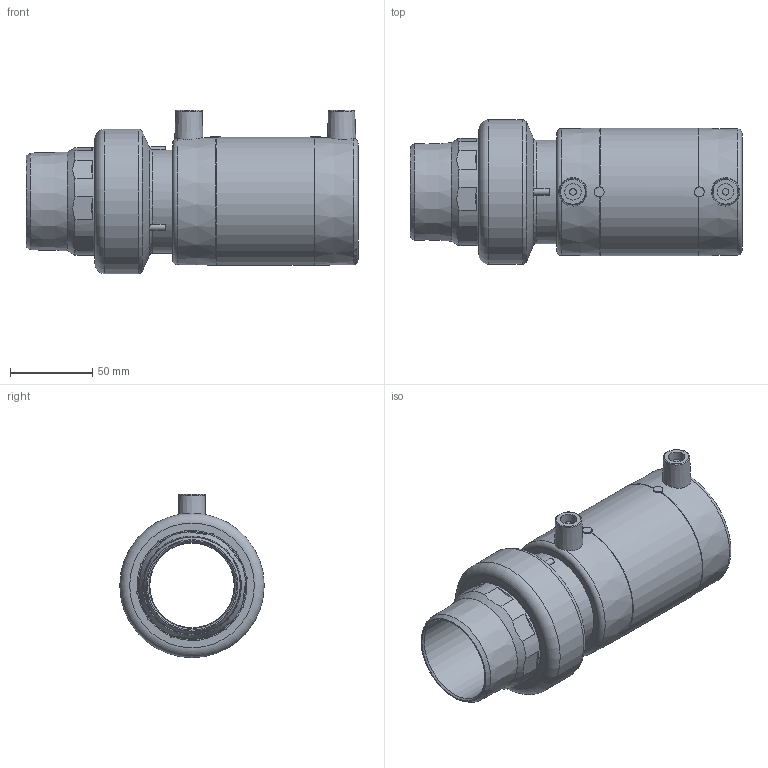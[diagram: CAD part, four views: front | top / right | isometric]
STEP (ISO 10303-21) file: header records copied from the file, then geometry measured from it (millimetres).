
FILE_DESCRIPTION(/* description */ ('Unknown'),/* implementation_level */ '2;1');
FILE_NAME(/* name */ 'MTMP063C',/* time_stamp */ '2021-03-02T10:10:48+01:00',/* author */ ('Unknown'),/* organization */ ('Unknown'),/* preprocessor_version */ 'ST-DEVELOPER v16.7',/* originating_system */ 'Solid Edge',/* authorisation */ 'Unknown');
FILE_SCHEMA (('AUTOMOTIVE_DESIGN {1 0 10303 214 3 1 1}'));
Length unit declared in the file: millimetre
Products named in the file (5): MTMP063C; MP063C; RTOMP063C; Parte PE 063; IOM063C
Assembly tree (4 placements, depth 3):
  MTMP063C
    MP063C
    RTOMP063C
      Parte PE 063
      IOM063C
Bounding box: 202.25 x 88 x 99.5 mm (x, y, z)
Volume: 417945.9 mm3; surface area: 139181.2 mm2
Topology: 3 solids, 3 shells, 442 faces, 1230 edges, 809 vertices
Faces by surface type: cylinder 194, cone 104, plane 93, bspline 27, torus 24
Full cylindrical faces by diameter (mm): 4 x2, 6 x2, 10 x2, 51.4 x1, 52.4 x1, 55.6 x2, 60 x2, 60.2 x2, 63 x2, 65.5 x1, 69.8 x2, 74 x4, 78 x1, 88 x1
Entity records: 19274 total; most frequent: CARTESIAN_POINT 7828, ORIENTED_EDGE 2296, DIRECTION 1792, EDGE_CURVE 1148, AXIS2_PLACEMENT_3D 798, VERTEX_POINT 778, B_SPLINE_CURVE_WITH_KNOTS 526, EDGE_LOOP 514
